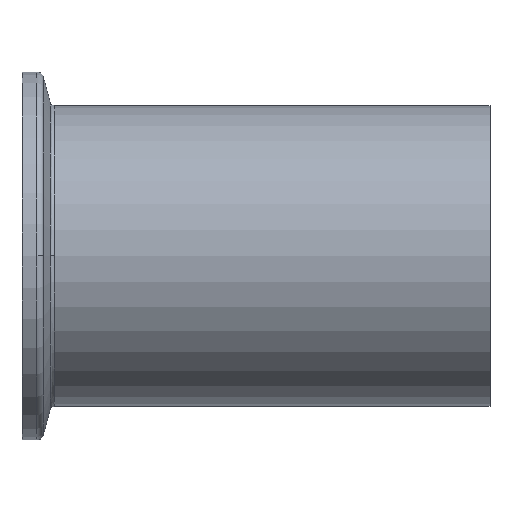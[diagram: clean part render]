
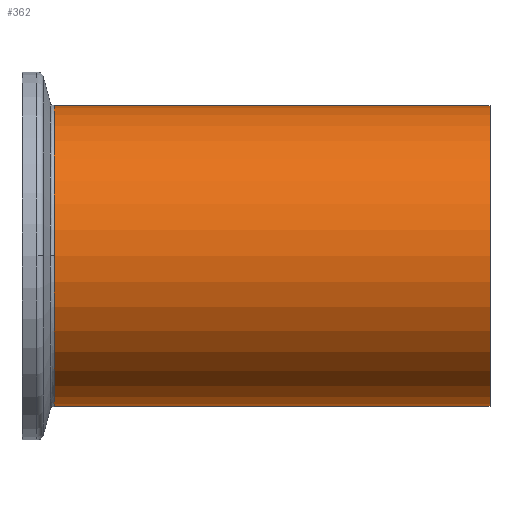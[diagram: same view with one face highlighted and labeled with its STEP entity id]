
A CAD part, top view. The second image highlights one B-rep face of the part: STEP entity #362.
In plain terms, the highlighted cylindrical face has radius 22.5 mm (diameter 45 mm), a partial arc.
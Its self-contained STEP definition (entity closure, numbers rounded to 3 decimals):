
#312=CARTESIAN_POINT('',(37.17,0.0,0.0));
#313=DIRECTION('',(1.0,0.0,0.0));
#314=DIRECTION('',(0.0,1.0,0.0));
#315=AXIS2_PLACEMENT_3D('',#312,#313,#314);
#316=CYLINDRICAL_SURFACE('',#315,22.5);
#317=CARTESIAN_POINT('',(4.8,22.5,0.0));
#318=VERTEX_POINT('',#317);
#319=CARTESIAN_POINT('',(70.0,22.5,0.0));
#320=VERTEX_POINT('',#319);
#321=CARTESIAN_POINT('',(4.8,22.5,0.0));
#322=DIRECTION('',(1.0,0.0,0.0));
#323=VECTOR('',#322,65.2);
#324=LINE('',#321,#323);
#325=EDGE_CURVE('',#318,#320,#324,.T.);
#326=ORIENTED_EDGE('',*,*,#325,.F.);
#327=CARTESIAN_POINT('',(4.8,0.,22.5));
#328=VERTEX_POINT('',#327);
#329=CARTESIAN_POINT('',(4.8,0.0,0.0));
#330=DIRECTION('',(-1.0,0.0,0.0));
#331=DIRECTION('',(0.0,-1.0,0.0));
#332=AXIS2_PLACEMENT_3D('',#329,#330,#331);
#333=CIRCLE('',#332,22.5);
#334=EDGE_CURVE('',#328,#318,#333,.T.);
#335=ORIENTED_EDGE('',*,*,#334,.F.);
#336=CARTESIAN_POINT('',(4.8,-22.5,0.));
#337=VERTEX_POINT('',#336);
#338=CARTESIAN_POINT('',(4.8,0.0,0.0));
#339=DIRECTION('',(-1.0,0.0,0.0));
#340=DIRECTION('',(0.0,-1.0,0.0));
#341=AXIS2_PLACEMENT_3D('',#338,#339,#340);
#342=CIRCLE('',#341,22.5);
#343=EDGE_CURVE('',#337,#328,#342,.T.);
#344=ORIENTED_EDGE('',*,*,#343,.F.);
#345=CARTESIAN_POINT('',(70.0,-22.5,0.));
#346=VERTEX_POINT('',#345);
#347=CARTESIAN_POINT('',(70.0,-22.5,0.));
#348=DIRECTION('',(-1.0,0.0,0.0));
#349=VECTOR('',#348,65.2);
#350=LINE('',#347,#349);
#351=EDGE_CURVE('',#346,#337,#350,.T.);
#352=ORIENTED_EDGE('',*,*,#351,.F.);
#353=CARTESIAN_POINT('',(70.0,0.0,0.0));
#354=DIRECTION('',(1.0,0.0,0.0));
#355=DIRECTION('',(0.0,1.0,0.0));
#356=AXIS2_PLACEMENT_3D('',#353,#354,#355);
#357=CIRCLE('',#356,22.5);
#358=EDGE_CURVE('',#320,#346,#357,.T.);
#359=ORIENTED_EDGE('',*,*,#358,.F.);
#360=EDGE_LOOP('',(#326,#335,#344,#352,#359));
#361=FACE_OUTER_BOUND('',#360,.T.);
#362=ADVANCED_FACE('',(#361),#316,.T.);
